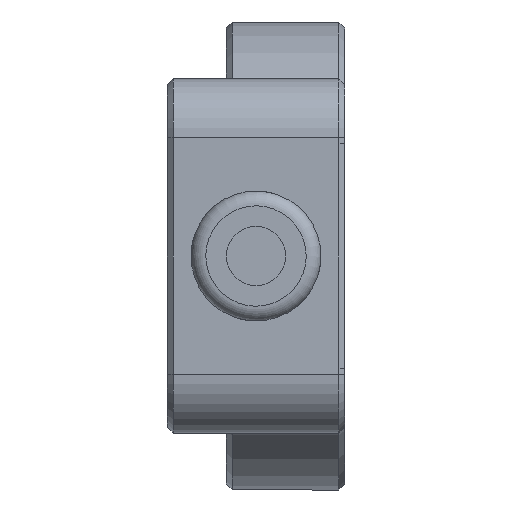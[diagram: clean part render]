
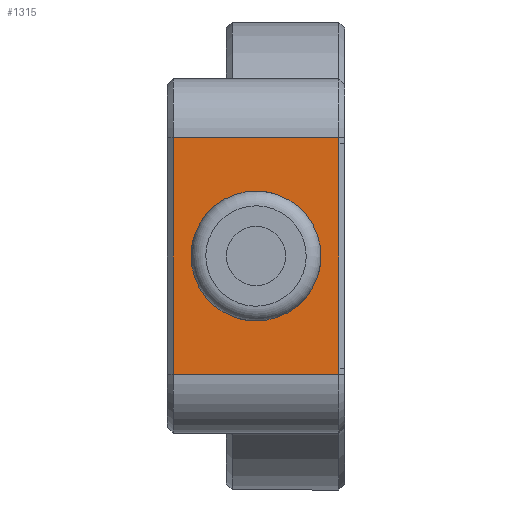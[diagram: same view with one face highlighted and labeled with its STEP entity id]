
A CAD part, left-side view. The second image highlights one B-rep face of the part: STEP entity #1315.
In plain terms, the highlighted planar face has unit normal (-1, 0, 0).
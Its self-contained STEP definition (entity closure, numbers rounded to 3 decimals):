
#91 = EDGE_CURVE ( 'NONE', #6402, #2395, #3852, .T. ) ;
#252 = ORIENTED_EDGE ( 'NONE', *, *, #2129, .T. ) ;
#515 = DIRECTION ( 'NONE',  ( 1., 0., 0. ) ) ;
#593 = CARTESIAN_POINT ( 'NONE',  ( -35., 0.5, 15. ) ) ;
#773 = LINE ( 'NONE', #8019, #2592 ) ;
#1013 = AXIS2_PLACEMENT_3D ( 'NONE', #8479, #515, #1962 ) ;
#1056 = CARTESIAN_POINT ( 'NONE',  ( -35., 14.5, 10. ) ) ;
#1291 = CARTESIAN_POINT ( 'NONE',  ( -35., 7.5, 0. ) ) ;
#1315 = ADVANCED_FACE ( 'NONE', ( #2724, #4809 ), #4108, .F. ) ;
#1361 = LINE ( 'NONE', #593, #3032 ) ;
#1906 = CARTESIAN_POINT ( 'NONE',  ( -35., 14.5, -10. ) ) ;
#1908 = EDGE_LOOP ( 'NONE', ( #7847, #2343, #5700, #252 ) ) ;
#1962 = DIRECTION ( 'NONE',  ( 0., 0., 1. ) ) ;
#2115 = CIRCLE ( 'NONE', #4092, 5.5 ) ;
#2129 = EDGE_CURVE ( 'NONE', #2395, #4141, #1361, .T. ) ;
#2268 = VECTOR ( 'NONE', #8470, 1000. ) ;
#2343 = ORIENTED_EDGE ( 'NONE', *, *, #8825, .T. ) ;
#2380 = CARTESIAN_POINT ( 'NONE',  ( -35., 0., -10. ) ) ;
#2395 = VERTEX_POINT ( 'NONE', #7557 ) ;
#2592 = VECTOR ( 'NONE', #3116, 1000. ) ;
#2724 = FACE_BOUND ( 'NONE', #8673, .T. ) ;
#2770 = CARTESIAN_POINT ( 'NONE',  ( -35., 8.41, 5.424 ) ) ;
#2886 = ORIENTED_EDGE ( 'NONE', *, *, #8070, .T. ) ;
#3032 = VECTOR ( 'NONE', #4932, 1000. ) ;
#3116 = DIRECTION ( 'NONE',  ( 0., 1., 0. ) ) ;
#3497 = VECTOR ( 'NONE', #5330, 1000. ) ;
#3852 = LINE ( 'NONE', #2380, #3497 ) ;
#4092 = AXIS2_PLACEMENT_3D ( 'NONE', #1291, #7825, #4206 ) ;
#4108 = PLANE ( 'NONE',  #1013 ) ;
#4141 = VERTEX_POINT ( 'NONE', #9314 ) ;
#4206 = DIRECTION ( 'NONE',  ( 0., 0.165, 0.986 ) ) ;
#4737 = VERTEX_POINT ( 'NONE', #1056 ) ;
#4758 = LINE ( 'NONE', #1906, #2268 ) ;
#4809 = FACE_OUTER_BOUND ( 'NONE', #1908, .T. ) ;
#4932 = DIRECTION ( 'NONE',  ( 0., 0., 1. ) ) ;
#5330 = DIRECTION ( 'NONE',  ( 0., -1., 0. ) ) ;
#5700 = ORIENTED_EDGE ( 'NONE', *, *, #91, .T. ) ;
#6402 = VERTEX_POINT ( 'NONE', #8991 ) ;
#7557 = CARTESIAN_POINT ( 'NONE',  ( -35., 0.5, -10. ) ) ;
#7825 = DIRECTION ( 'NONE',  ( 1., 0., 0. ) ) ;
#7847 = ORIENTED_EDGE ( 'NONE', *, *, #9315, .T. ) ;
#8019 = CARTESIAN_POINT ( 'NONE',  ( -35., 0., 10. ) ) ;
#8070 = EDGE_CURVE ( 'NONE', #8529, #8529, #2115, .T. ) ;
#8470 = DIRECTION ( 'NONE',  ( 0., 0., -1. ) ) ;
#8479 = CARTESIAN_POINT ( 'NONE',  ( -35., 0., 15. ) ) ;
#8529 = VERTEX_POINT ( 'NONE', #2770 ) ;
#8673 = EDGE_LOOP ( 'NONE', ( #2886 ) ) ;
#8825 = EDGE_CURVE ( 'NONE', #4737, #6402, #4758, .T. ) ;
#8991 = CARTESIAN_POINT ( 'NONE',  ( -35., 14.5, -10. ) ) ;
#9314 = CARTESIAN_POINT ( 'NONE',  ( -35., 0.5, 10. ) ) ;
#9315 = EDGE_CURVE ( 'NONE', #4141, #4737, #773, .T. ) ;
